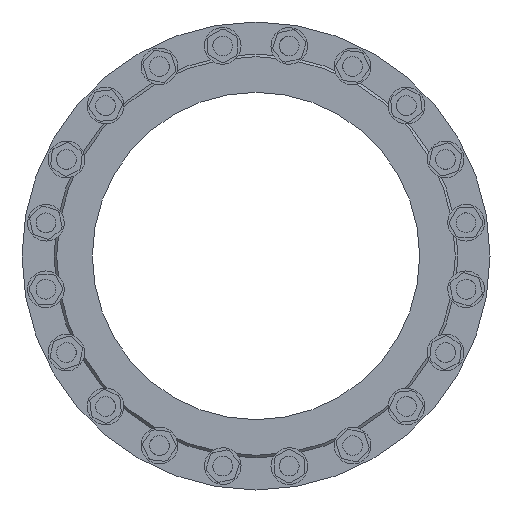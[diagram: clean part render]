
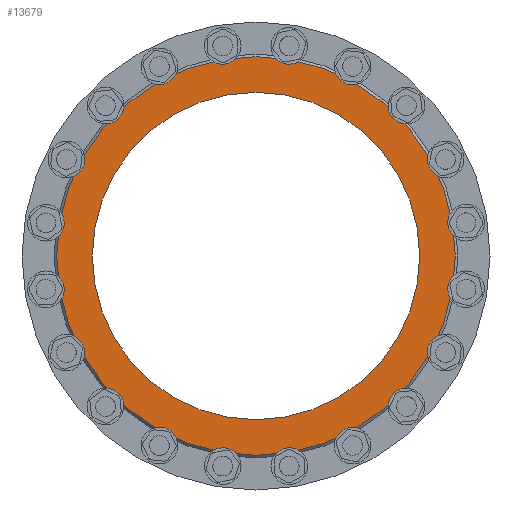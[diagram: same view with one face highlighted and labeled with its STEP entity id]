
A CAD part, left-side view. The second image highlights one B-rep face of the part: STEP entity #13679.
In plain terms, the highlighted planar face has unit normal (-1, 0, 0).
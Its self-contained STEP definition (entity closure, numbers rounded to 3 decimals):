
#2788 = CIRCLE ( 'NONE', #29118, 304.5 ) ;
#4110 = DIRECTION ( 'NONE',  ( 1., 0., 0. ) ) ;
#7783 = CARTESIAN_POINT ( 'NONE',  ( -75., 0., -250. ) ) ;
#8497 = PLANE ( 'NONE',  #31585 ) ;
#8767 = FACE_OUTER_BOUND ( 'NONE', #34380, .T. ) ;
#12799 = CARTESIAN_POINT ( 'NONE',  ( -75., 0., 0. ) ) ;
#12923 = CIRCLE ( 'NONE', #14718, 250. ) ;
#13679 = ADVANCED_FACE ( 'NONE', ( #17298, #8767 ), #8497, .F. ) ;
#14453 = ORIENTED_EDGE ( 'NONE', *, *, #40089, .T. ) ;
#14718 = AXIS2_PLACEMENT_3D ( 'NONE', #44105, #53462, #44637 ) ;
#16492 = ORIENTED_EDGE ( 'NONE', *, *, #36814, .T. ) ;
#17298 = FACE_BOUND ( 'NONE', #25795, .T. ) ;
#21315 = DIRECTION ( 'NONE',  ( -1., 0., 0. ) ) ;
#24623 = DIRECTION ( 'NONE',  ( 0., -1., 0. ) ) ;
#25257 = CARTESIAN_POINT ( 'NONE',  ( -75., 0., 250. ) ) ;
#25795 = EDGE_LOOP ( 'NONE', ( #16492 ) ) ;
#29118 = AXIS2_PLACEMENT_3D ( 'NONE', #12799, #21315, #24623 ) ;
#31585 = AXIS2_PLACEMENT_3D ( 'NONE', #25257, #4110, #34065 ) ;
#34065 = DIRECTION ( 'NONE',  ( 0., 1., 0. ) ) ;
#34380 = EDGE_LOOP ( 'NONE', ( #14453 ) ) ;
#36814 = EDGE_CURVE ( 'NONE', #36946, #36946, #12923, .T. ) ;
#36946 = VERTEX_POINT ( 'NONE', #7783 ) ;
#40089 = EDGE_CURVE ( 'NONE', #41073, #41073, #2788, .T. ) ;
#41073 = VERTEX_POINT ( 'NONE', #45473 ) ;
#44105 = CARTESIAN_POINT ( 'NONE',  ( -75., 0., 0. ) ) ;
#44637 = DIRECTION ( 'NONE',  ( 0., 0., -1. ) ) ;
#45473 = CARTESIAN_POINT ( 'NONE',  ( -75., -304.5, 0. ) ) ;
#53462 = DIRECTION ( 'NONE',  ( 1., 0., 0. ) ) ;
